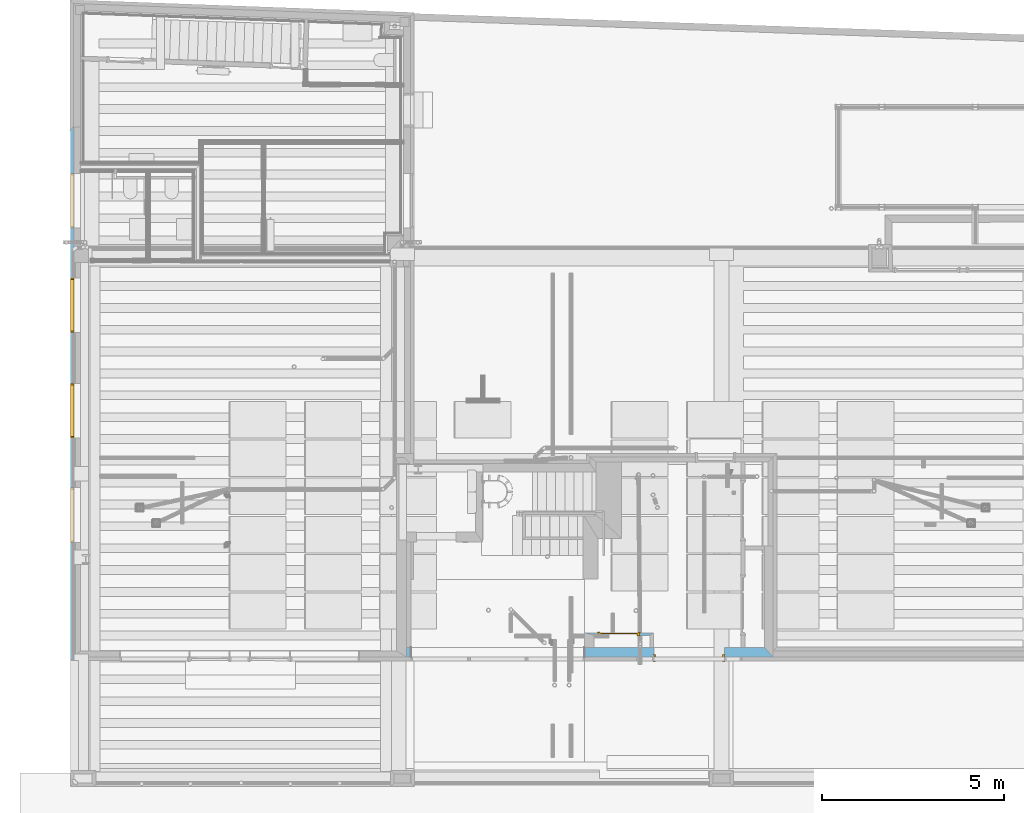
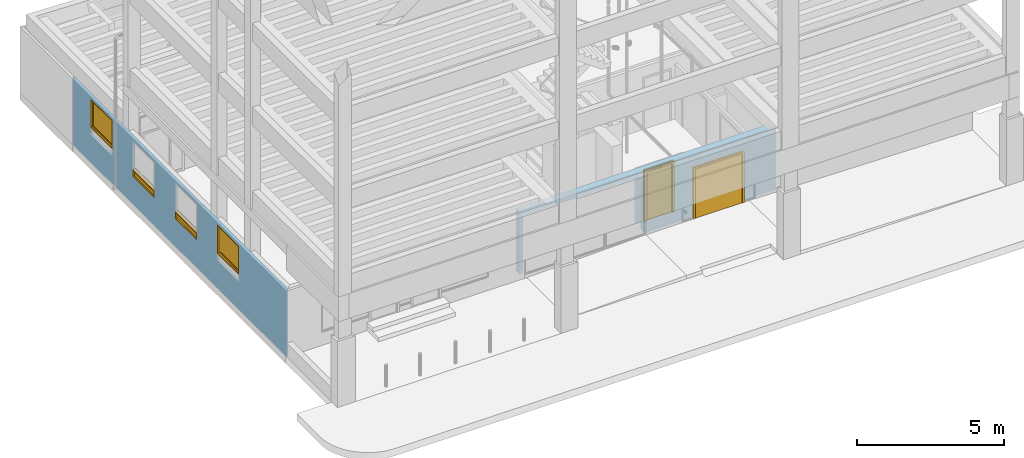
# One storey, part 22 of 108: 4 windows, 2 doors, 7 openings, plus 3 elements that do not belong to this part.
"""IFC2X3 building model written with IfcOpenShell, lengths in metres."""

from ifc_helpers import new_model, entity, si_unit, converted_unit, derived_unit, money_unit, direction, frame, frame_2d, origin_with_axes, place, context, subcontext, project, spatial, polyline, rectangle, outline, extrude, faceted_brep, material, layer, layer_set, layer_usage, type_object, element, fill, save


model = new_model("IFC2X3")

# Units and contexts
model_context = context("Model", 3, precision=1e-05, world=origin_with_axes(), true_north=direction((0.0, 1.0)))
body_context = subcontext(model_context, "Body", "Model", "MODEL_VIEW", scale=1.0)
ifc_project = project(units=[si_unit("LENGTHUNIT", "METRE"), si_unit("AREAUNIT", "SQUARE_METRE"), si_unit("VOLUMEUNIT", "CUBIC_METRE"), si_unit("ABSORBEDDOSEUNIT", "GRAY"), si_unit("AMOUNTOFSUBSTANCEUNIT", "MOLE"), si_unit("DOSEEQUIVALENTUNIT", "SIEVERT"), si_unit("ELECTRICCAPACITANCEUNIT", "FARAD"), si_unit("ELECTRICCHARGEUNIT", "COULOMB"), si_unit("ELECTRICCONDUCTANCEUNIT", "SIEMENS"), si_unit("ELECTRICCURRENTUNIT", "AMPERE"), si_unit("ELECTRICRESISTANCEUNIT", "OHM"), si_unit("ELECTRICVOLTAGEUNIT", "VOLT"), si_unit("ENERGYUNIT", "JOULE"), si_unit("FORCEUNIT", "NEWTON"), si_unit("FREQUENCYUNIT", "HERTZ"), si_unit("ILLUMINANCEUNIT", "LUX"), si_unit("INDUCTANCEUNIT", "HENRY"), si_unit("LUMINOUSFLUXUNIT", "LUMEN"), si_unit("LUMINOUSINTENSITYUNIT", "CANDELA"), si_unit("MAGNETICFLUXDENSITYUNIT", "TESLA"), si_unit("MAGNETICFLUXUNIT", "WEBER"), si_unit("MASSUNIT", "GRAM"), converted_unit("PLANEANGLEUNIT", "degree", entity("IfcReal", 0.0174532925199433), si_unit("PLANEANGLEUNIT", "RADIAN"), dimensions=[0, 0, 0, 0, 0, 0, 0]), si_unit("POWERUNIT", "WATT"), si_unit("PRESSUREUNIT", "PASCAL"), si_unit("RADIOACTIVITYUNIT", "BECQUEREL"), si_unit("SOLIDANGLEUNIT", "STERADIAN"), si_unit("THERMODYNAMICTEMPERATUREUNIT", "KELVIN"), si_unit("TIMEUNIT", "SECOND"), derived_unit("ACCELERATIONUNIT", [(si_unit("LENGTHUNIT", "METRE"), 1), (si_unit("TIMEUNIT", "SECOND"), -2)]), derived_unit("ANGULARVELOCITYUNIT", [(converted_unit("PLANEANGLEUNIT", "degree", entity("IfcReal", 0.0174532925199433), si_unit("PLANEANGLEUNIT", "RADIAN"), dimensions=[0, 0, 0, 0, 0, 0, 0]), 1), (si_unit("TIMEUNIT", "SECOND"), -1)]), derived_unit("CURVATUREUNIT", [(converted_unit("PLANEANGLEUNIT", "degree", entity("IfcReal", 0.0174532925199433), si_unit("PLANEANGLEUNIT", "RADIAN"), dimensions=[0, 0, 0, 0, 0, 0, 0]), 1), (si_unit("LENGTHUNIT", "METRE"), -1)]), derived_unit("DYNAMICVISCOSITYUNIT", [(si_unit("PRESSUREUNIT", "PASCAL"), 1), (si_unit("TIMEUNIT", "SECOND"), 1)]), derived_unit("HEATFLUXDENSITYUNIT", [(si_unit("POWERUNIT", "WATT"), 1), (si_unit("LENGTHUNIT", "METRE"), -2)]), derived_unit("HEATINGVALUEUNIT", [(si_unit("ENERGYUNIT", "JOULE"), 1), (si_unit("MASSUNIT", "GRAM"), -1)]), derived_unit("INTEGERCOUNTRATEUNIT", [(si_unit("TIMEUNIT", "SECOND"), -1)]), derived_unit("IONCONCENTRATIONUNIT", [(si_unit("MASSUNIT", "GRAM"), 1), (si_unit("VOLUMEUNIT", "CUBIC_METRE"), -1)]), derived_unit("ISOTHERMALMOISTURECAPACITYUNIT", [(si_unit("VOLUMEUNIT", "CUBIC_METRE"), 1), (si_unit("MASSUNIT", "GRAM"), -1)]), derived_unit("KINEMATICVISCOSITYUNIT", [(si_unit("AREAUNIT", "SQUARE_METRE"), 1), (si_unit("TIMEUNIT", "SECOND"), -1)]), derived_unit("LINEARFORCEUNIT", [(si_unit("FORCEUNIT", "NEWTON"), 1), (si_unit("LENGTHUNIT", "METRE"), -1)]), derived_unit("LINEARMOMENTUNIT", [(si_unit("FORCEUNIT", "NEWTON"), 1), (si_unit("LENGTHUNIT", "METRE"), -1)]), derived_unit("LINEARSTIFFNESSUNIT", [(si_unit("FORCEUNIT", "NEWTON"), 1), (si_unit("LENGTHUNIT", "METRE"), -1)]), derived_unit("LINEARVELOCITYUNIT", [(si_unit("LENGTHUNIT", "METRE"), 1), (si_unit("TIMEUNIT", "SECOND"), -1)]), derived_unit("LUMINOUSINTENSITYDISTRIBUTIONUNIT", [(si_unit("LUMINOUSINTENSITYUNIT", "CANDELA"), 1), (si_unit("LUMINOUSFLUXUNIT", "LUMEN"), -1)]), derived_unit("MASSDENSITYUNIT", [(si_unit("MASSUNIT", "GRAM"), 1), (si_unit("VOLUMEUNIT", "CUBIC_METRE"), -1)]), derived_unit("MASSFLOWRATEUNIT", [(si_unit("MASSUNIT", "GRAM"), 1), (si_unit("TIMEUNIT", "SECOND"), -1)]), derived_unit("MASSPERLENGTHUNIT", [(si_unit("MASSUNIT", "GRAM"), 1), (si_unit("LENGTHUNIT", "METRE"), -1)]), derived_unit("MODULUSOFELASTICITYUNIT", [(si_unit("FORCEUNIT", "NEWTON"), 1), (si_unit("AREAUNIT", "SQUARE_METRE"), -1)]), derived_unit("MODULUSOFLINEARSUBGRADEREACTIONUNIT", [(si_unit("FORCEUNIT", "NEWTON"), 1), (si_unit("LENGTHUNIT", "METRE"), -2)]), derived_unit("MODULUSOFROTATIONALSUBGRADEREACTIONUNIT", [(si_unit("FORCEUNIT", "NEWTON"), 1), (si_unit("LENGTHUNIT", "METRE"), 1)]), derived_unit("MODULUSOFSUBGRADEREACTIONUNIT", [(si_unit("FORCEUNIT", "NEWTON"), 1), (si_unit("VOLUMEUNIT", "CUBIC_METRE"), -1)]), derived_unit("MOISTUREDIFFUSIVITYUNIT", [(si_unit("VOLUMEUNIT", "CUBIC_METRE"), 1), (si_unit("TIMEUNIT", "SECOND"), -1)]), derived_unit("MOLECULARWEIGHTUNIT", [(si_unit("MASSUNIT", "GRAM"), 1), (si_unit("AMOUNTOFSUBSTANCEUNIT", "MOLE"), -1)]), derived_unit("PLANARFORCEUNIT", [(si_unit("FORCEUNIT", "NEWTON"), 1), (si_unit("LENGTHUNIT", "METRE"), -2)]), derived_unit("ROTATIONALFREQUENCYUNIT", [(si_unit("TIMEUNIT", "SECOND"), -1)]), derived_unit("ROTATIONALMASSUNIT", [(si_unit("MASSUNIT", "GRAM"), 1), (si_unit("LENGTHUNIT", "METRE"), 2)]), derived_unit("ROTATIONALSTIFFNESSUNIT", [(si_unit("FORCEUNIT", "NEWTON"), 1), (si_unit("LENGTHUNIT", "METRE"), 1), (converted_unit("PLANEANGLEUNIT", "degree", entity("IfcReal", 0.0174532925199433), si_unit("PLANEANGLEUNIT", "RADIAN"), dimensions=[0, 0, 0, 0, 0, 0, 0]), -1)]), derived_unit("SECTIONAREAINTEGRALUNIT", [(si_unit("LENGTHUNIT", "METRE"), 5)]), derived_unit("SECTIONMODULUSUNIT", [(si_unit("LENGTHUNIT", "METRE"), 3)]), derived_unit("SHEARMODULUSUNIT", [(si_unit("FORCEUNIT", "NEWTON"), 1), (si_unit("AREAUNIT", "SQUARE_METRE"), -1)]), derived_unit("SOUNDPOWERUNIT", [(si_unit("ENERGYUNIT", "JOULE"), 1), (si_unit("TIMEUNIT", "SECOND"), -1)]), derived_unit("SPECIFICHEATCAPACITYUNIT", [(si_unit("FORCEUNIT", "NEWTON"), 1), (si_unit("MASSUNIT", "GRAM"), -1), (si_unit("THERMODYNAMICTEMPERATUREUNIT", "KELVIN"), -1)]), derived_unit("TEMPERATUREGRADIENTUNIT", [(si_unit("THERMODYNAMICTEMPERATUREUNIT", "KELVIN"), 1), (si_unit("LENGTHUNIT", "METRE"), -1)]), derived_unit("THERMALADMITTANCEUNIT", [(si_unit("POWERUNIT", "WATT"), 1), (si_unit("AREAUNIT", "SQUARE_METRE"), -1), (si_unit("THERMODYNAMICTEMPERATUREUNIT", "KELVIN"), -1)]), derived_unit("THERMALCONDUCTANCEUNIT", [(si_unit("POWERUNIT", "WATT"), 1), (si_unit("LENGTHUNIT", "METRE"), -1), (si_unit("THERMODYNAMICTEMPERATUREUNIT", "KELVIN"), -1)]), derived_unit("THERMALEXPANSIONCOEFFICIENTUNIT", [(si_unit("THERMODYNAMICTEMPERATUREUNIT", "KELVIN"), -1)]), derived_unit("THERMALRESISTANCEUNIT", [(si_unit("AREAUNIT", "SQUARE_METRE"), 1), (si_unit("POWERUNIT", "WATT"), -1)]), derived_unit("THERMALTRANSMITTANCEUNIT", [(si_unit("POWERUNIT", "WATT"), 1), (si_unit("AREAUNIT", "SQUARE_METRE"), -1), (si_unit("THERMODYNAMICTEMPERATUREUNIT", "KELVIN"), -1)]), derived_unit("TORQUEUNIT", [(si_unit("FORCEUNIT", "NEWTON"), 1), (si_unit("LENGTHUNIT", "METRE"), 1)]), derived_unit("VAPORPERMEABILITYUNIT", [(si_unit("MASSUNIT", "GRAM"), 1), (si_unit("TIMEUNIT", "SECOND"), -1)]), derived_unit("VOLUMETRICFLOWRATEUNIT", [(si_unit("VOLUMEUNIT", "CUBIC_METRE"), 1), (si_unit("TIMEUNIT", "SECOND"), -1)]), derived_unit("WARPINGCONSTANTUNIT", [(si_unit("LENGTHUNIT", "METRE"), 6)]), derived_unit("WARPINGMOMENTUNIT", [(si_unit("FORCEUNIT", "NEWTON"), 1), (si_unit("LENGTHUNIT", "METRE"), 2)]), money_unit("GBP")], contexts=[model_context])

# Site, building, storey
site_placement = place(None, origin_with_axes())
site = spatial("IfcSite", under=ifc_project, at=site_placement, Name="Site", CompositionType="ELEMENT")
building_placement = place(site_placement, origin_with_axes())
building = spatial("IfcBuilding", under=site, at=building_placement, Name="Building01", CompositionType="ELEMENT")
storey_placement = place(building_placement, origin_with_axes())
storey = spatial("IfcBuildingStorey", under=building, at=storey_placement, Name="GF", CompositionType="ELEMENT", Elevation=0.0)

# Wall, openings
ifc_material_1 = material(Name="A_BSUK_WallsExternal_Brick")
ifc_layer_1 = layer(ifc_material_1, 0.1, ventilated=False)
ifc_layer_set_1 = layer_set([ifc_layer_1])
ifc_layer_usage_1 = layer_usage(ifc_layer_set_1, "AXIS2", "POSITIVE", 0.0)
wall_type_1 = type_object("IfcWallType", Name="A-Walls-ExternalBrick", PredefinedType="NOTDEFINED")
wall_1_placement = place(storey_placement, frame((0.000677, 18.020229, -0.145), z_axis=(0.0, 0.0, 1.0), x_axis=(-3.756e-05, -1.0, 0.0)))
wall_1 = element("IfcWallStandardCase", 1, at=wall_1_placement, inside=storey, type_object=wall_type_1, material=ifc_layer_usage_1, Name="A-Walls-ExternalBrick", ObjectType="A-Walls-ExternalBrick", context=body_context, shape_type="SweptSolid", body=[
    extrude(outline(polyline([(14.460712, 0.1), (-0.100004, 0.1), (0.0, 0.0), (14.560712, 0.0), (14.460712, 0.1)])), origin_with_axes(), (0.0, 0.0, 1.0), 2.745),
])
opening_1_placement = place(wall_1_placement, frame((6.944757, 0.0, 1.143), z_axis=(0.0, 0.0, 1.0), x_axis=(1.0, 0.0, 0.0)))
opening_1 = element("IfcOpeningElement", 2, at=opening_1_placement, cuts=wall_1, Name="Opening", ObjectType="Opening", context=body_context, shape_type="Brep", body=[
    faceted_brep([(1.5, 0.1, 0.0), (0.0, 0.1, 0.0), (0.0, 0.1, 1.5), (1.5, 0.1, 1.5), (4e-06, 0.0, 0.0), (1.500004, 0.0, 0.0), (4e-06, 0.0, 1.5), (1.500004, 0.0, 1.5)], [[[0, 1, 2, 3]], [[4, 1, 0, 5]], [[6, 2, 1, 4]], [[5, 0, 3, 7]], [[4, 5, 7, 6]], [[7, 3, 2, 6]]]),
])
opening_2_placement = place(wall_1_placement, frame((9.809487, 0.0, 1.143), z_axis=(0.0, 0.0, 1.0), x_axis=(1.0, 0.0, 0.0)))
opening_2 = element("IfcOpeningElement", 3, at=opening_2_placement, cuts=wall_1, Name="Opening", ObjectType="Opening", context=body_context, shape_type="Brep", body=[
    faceted_brep([(1.5, 0.1, 0.0), (0.0, 0.1, 0.0), (0.0, 0.1, 1.5), (1.5, 0.1, 1.5), (4e-06, 0.0, 1.5), (4e-06, 0.0, 0.0), (1.500004, 0.0, 1.5), (1.500004, 0.0, 0.0)], [[[0, 1, 2, 3]], [[4, 2, 1, 5]], [[6, 3, 2, 4]], [[7, 0, 3, 6]], [[5, 7, 6, 4]], [[5, 1, 0, 7]]]),
])
opening_3_placement = place(wall_1_placement, frame((4.051232, 0.0, 1.143), z_axis=(0.0, 0.0, 1.0), x_axis=(1.0, 0.0, 0.0)))
opening_3 = element("IfcOpeningElement", 4, at=opening_3_placement, cuts=wall_1, Name="Opening", ObjectType="Opening", context=body_context, shape_type="Brep", body=[
    faceted_brep([(1.5, 0.1, 0.0), (0.0, 0.1, 0.0), (0.0, 0.1, 1.5), (1.5, 0.1, 1.5), (4e-06, 0.0, 0.0), (1.500004, 0.0, 0.0), (4e-06, 0.0, 1.5), (1.500004, 0.0, 1.5)], [[[0, 1, 2, 3]], [[4, 1, 0, 5]], [[6, 2, 1, 4]], [[5, 0, 3, 7]], [[4, 5, 7, 6]], [[7, 3, 2, 6]]]),
])
opening_4_placement = place(wall_1_placement, frame((1.177435, 0.0, 1.143), z_axis=(0.0, 0.0, 1.0), x_axis=(1.0, 0.0, 0.0)))
opening_4 = element("IfcOpeningElement", 5, at=opening_4_placement, cuts=wall_1, Name="Opening", ObjectType="Opening", context=body_context, shape_type="Brep", body=[
    faceted_brep([(1.5, 0.1, 0.0), (0.0, 0.1, 0.0), (0.0, 0.1, 1.5), (1.5, 0.1, 1.5), (4e-06, 0.0, 1.5), (4e-06, 0.0, 0.0), (1.500004, 0.0, 1.5), (1.500004, 0.0, 0.0)], [[[0, 1, 2, 3]], [[4, 2, 1, 5]], [[6, 3, 2, 4]], [[7, 0, 3, 6]], [[5, 7, 6, 4]], [[5, 1, 0, 7]]]),
])

# Space
space_1_placement = place(storey_placement, frame((3.380525, 16.69365, 0.216987), z_axis=(0.0, 0.0, 1.0), x_axis=(-1.0, 0.0, 0.0)))
space_1 = spatial("IfcSpace", under=storey, at=space_1_placement, Name="0", CompositionType="ELEMENT", InteriorOrExteriorSpace="NOTDEFINED")

# Window
ifc_material_2 = material(Name="A_BSUK_Window_Frames")
window_style_1 = type_object("IfcWindowStyle", Name="A-Fixed", ConstructionType="NOTDEFINED", OperationType="USERDEFINED", ParameterTakesPrecedence=False, Sizeable=False)
window_1_placement = place(opening_1_placement, frame((1.500004, 0.0, 0.0), z_axis=(0.0, 0.0, 1.0), x_axis=(1.0, 3.756e-05, 0.0)))
window_1 = element("IfcWindow", 6, at=window_1_placement, inside=space_1, type_object=window_style_1, material=ifc_material_2, Name="0.01", ObjectType="A-Fixed", OverallHeight=0.300000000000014, OverallWidth=1.50000000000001, context=body_context, shape_type="Brep", body=[
    faceted_brep([(-0.042, 0.0, 0.042), (-0.042, 0.0, 0.258), (-0.042, 0.1, 0.258), (-0.042, 0.1, 0.042), (0.0, 0.1, 0.3), (-1.5, 0.1, 0.3), (-1.5, 0.0, 0.3), (0.0, 0.0, 0.3), (0.0, 0.1, 0.0), (0.0, 0.0, 0.0), (-1.5, 0.1, 0.0), (-1.5, 0.0, 0.0), (-1.458, 0.1, 0.258), (-1.458, 0.1, 0.042), (-1.458, 0.0, 0.042), (-1.458, 0.0, 0.258)], [[[0, 1, 2, 3]], [[4, 5, 6, 7]], [[8, 4, 7, 9]], [[10, 8, 9, 11]], [[5, 10, 11, 6]], [[5, 4, 8, 10], [3, 2, 12, 13]], [[14, 0, 3, 13]], [[15, 14, 13, 12]], [[1, 15, 12, 2]], [[9, 7, 6, 11], [15, 1, 0, 14]]]),
    faceted_brep([(-0.042, 0.053175, 0.258), (-0.042, 0.046825, 0.258), (-0.042, 0.046825, 0.042), (-0.042, 0.053175, 0.042), (-1.458, 0.053175, 0.042), (-1.458, 0.046825, 0.042), (-1.458, 0.046825, 0.258), (-1.458, 0.053175, 0.258)], [[[0, 1, 2, 3]], [[4, 5, 6, 7]], [[3, 2, 5, 4]], [[3, 4, 7, 0]], [[7, 6, 1, 0]], [[1, 6, 5, 2]]]),
])

fill(opening_1, window_1)

window_2_placement = place(opening_3_placement, frame((1.500004, 0.0, 0.0), z_axis=(0.0, 0.0, 1.0), x_axis=(1.0, 3.756e-05, 0.0)))
window_2 = element("IfcWindow", 7, at=window_2_placement, inside=space_1, type_object=window_style_1, material=ifc_material_2, Name="0.13", ObjectType="A-Fixed", OverallHeight=0.300000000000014, OverallWidth=1.50000000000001, context=body_context, shape_type="Brep", body=[
    faceted_brep([(-0.042, 0.0, 0.042), (-0.042, 0.0, 0.258), (-0.042, 0.1, 0.258), (-0.042, 0.1, 0.042), (0.0, 0.1, 0.3), (-1.5, 0.1, 0.3), (-1.5, 0.0, 0.3), (0.0, 0.0, 0.3), (0.0, 0.1, 0.0), (0.0, 0.0, 0.0), (-1.5, 0.1, 0.0), (-1.5, 0.0, 0.0), (-1.458, 0.1, 0.258), (-1.458, 0.1, 0.042), (-1.458, 0.0, 0.042), (-1.458, 0.0, 0.258)], [[[0, 1, 2, 3]], [[4, 5, 6, 7]], [[8, 4, 7, 9]], [[10, 8, 9, 11]], [[5, 10, 11, 6]], [[5, 4, 8, 10], [3, 2, 12, 13]], [[14, 0, 3, 13]], [[15, 14, 13, 12]], [[1, 15, 12, 2]], [[9, 7, 6, 11], [15, 1, 0, 14]]]),
    faceted_brep([(-0.042, 0.053175, 0.258), (-0.042, 0.046825, 0.258), (-0.042, 0.046825, 0.042), (-0.042, 0.053175, 0.042), (-1.458, 0.053175, 0.042), (-1.458, 0.046825, 0.042), (-1.458, 0.046825, 0.258), (-1.458, 0.053175, 0.258)], [[[0, 1, 2, 3]], [[4, 5, 6, 7]], [[3, 2, 5, 4]], [[3, 4, 7, 0]], [[7, 6, 1, 0]], [[1, 6, 5, 2]]]),
])

fill(opening_3, window_2)

ifc_material_3 = material(Name="A_BSUK_Windows")
window_style_2 = type_object("IfcWindowStyle", Name="A-Awning", ConstructionType="NOTDEFINED", OperationType="USERDEFINED", ParameterTakesPrecedence=False, Sizeable=False)
window_3_placement = place(opening_2_placement, frame((1.499999, 0.1254, 0.3), z_axis=(0.0, 0.0, 1.0), x_axis=(-1.0, -3.756e-05, 0.0)))
window_3 = element("IfcWindow", 8, at=window_3_placement, inside=space_1, type_object=window_style_2, material=ifc_material_3, Name="0.10", ObjectType="A-Awning", OverallHeight=1.20000000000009, OverallWidth=1.50000000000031, context=body_context, shape_type="Brep", body=[
    faceted_brep([(1.458, 0.1254, 0.042), (0.042, 0.1254, 0.042), (0.042, 0.0254, 0.042), (1.458, 0.0254, 0.042), (1.458, 0.1254, 1.158), (1.458, 0.0254, 1.158), (0.042, 0.1254, 1.158), (0.042, 0.0254, 1.158), (1.5, 0.0254, 0.0), (1.5, 0.0254, 1.2), (0.0, 0.0254, 1.2), (0.0, 0.0254, 0.0), (1.5, 0.1254, 1.2), (0.0, 0.1254, 1.2), (0.0, 0.1254, 0.0), (1.5, 0.1254, 0.0)], [[[0, 1, 2, 3]], [[4, 0, 3, 5]], [[6, 4, 5, 7]], [[8, 9, 10, 11], [3, 2, 7, 5]], [[1, 6, 7, 2]], [[10, 9, 12, 13]], [[8, 11, 14, 15]], [[9, 8, 15, 12]], [[15, 14, 13, 12], [0, 4, 6, 1]], [[11, 10, 13, 14]]]),
    faceted_brep([(1.4072, 0.0704, 0.0928), (0.0928, 0.0704, 0.0928), (0.0928, 0.0354, 0.0928), (1.4072, 0.0354, 0.0928), (1.4072, 0.0704, 1.1072), (1.4072, 0.0354, 1.1072), (0.0928, 0.0704, 1.1072), (0.0928, 0.0354, 1.1072), (1.458, 0.0704, 0.042), (0.042, 0.0704, 0.042), (0.042, 0.0704, 1.158), (1.458, 0.0704, 1.158), (0.042, 0.0354, 1.158), (1.458, 0.0354, 1.158), (0.042, 0.0354, 0.042), (1.458, 0.0354, 0.042)], [[[0, 1, 2, 3]], [[4, 0, 3, 5]], [[6, 4, 5, 7]], [[8, 9, 10, 11], [0, 4, 6, 1]], [[12, 13, 11, 10]], [[14, 12, 10, 9]], [[15, 14, 9, 8]], [[13, 15, 8, 11]], [[15, 13, 12, 14], [3, 2, 7, 5]], [[1, 6, 7, 2]]]),
    faceted_brep([(0.0928, 0.049725, 1.1072), (0.0928, 0.056075, 1.1072), (0.0928, 0.056075, 0.0928), (0.0928, 0.049725, 0.0928), (1.4072, 0.049725, 0.0928), (1.4072, 0.056075, 0.0928), (1.4072, 0.056075, 1.1072), (1.4072, 0.049725, 1.1072)], [[[0, 1, 2, 3]], [[4, 5, 6, 7]], [[7, 6, 1, 0]], [[3, 4, 7, 0]], [[3, 2, 5, 4]], [[1, 6, 5, 2]]]),
])

fill(opening_2, window_3)

# Space
space_2_placement = place(storey_placement, frame((0.280851, 16.893647, 0.217025), z_axis=(0.0, 0.0, 1.0), x_axis=(0.0, -1.0, 0.0)))
space_2 = spatial("IfcSpace", under=storey, at=space_2_placement, Name="F", CompositionType="ELEMENT", InteriorOrExteriorSpace="NOTDEFINED")

# Window
window_4_placement = place(opening_4_placement, frame((1.499999, 0.125348, 0.3), z_axis=(0.0, 0.0, 1.0), x_axis=(-1.0, -3.756e-05, 0.0)))
window_4 = element("IfcWindow", 9, at=window_4_placement, inside=space_2, type_object=window_style_2, material=ifc_material_3, Name="0.15", ObjectType="A-Awning", OverallHeight=1.20000000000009, OverallWidth=1.50000000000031, context=body_context, shape_type="Brep", body=[
    faceted_brep([(1.458, 0.1254, 0.042), (0.042, 0.1254, 0.042), (0.042, 0.0254, 0.042), (1.458, 0.0254, 0.042), (1.458, 0.1254, 1.158), (1.458, 0.0254, 1.158), (0.042, 0.1254, 1.158), (0.042, 0.0254, 1.158), (1.5, 0.0254, 0.0), (1.5, 0.0254, 1.2), (0.0, 0.0254, 1.2), (0.0, 0.0254, 0.0), (1.5, 0.1254, 1.2), (0.0, 0.1254, 1.2), (0.0, 0.1254, 0.0), (1.5, 0.1254, 0.0)], [[[0, 1, 2, 3]], [[4, 0, 3, 5]], [[6, 4, 5, 7]], [[8, 9, 10, 11], [3, 2, 7, 5]], [[1, 6, 7, 2]], [[10, 9, 12, 13]], [[8, 11, 14, 15]], [[9, 8, 15, 12]], [[15, 14, 13, 12], [0, 4, 6, 1]], [[11, 10, 13, 14]]]),
    faceted_brep([(1.4072, 0.0704, 0.0928), (0.0928, 0.0704, 0.0928), (0.0928, 0.0354, 0.0928), (1.4072, 0.0354, 0.0928), (1.4072, 0.0704, 1.1072), (1.4072, 0.0354, 1.1072), (0.0928, 0.0704, 1.1072), (0.0928, 0.0354, 1.1072), (1.458, 0.0704, 0.042), (0.042, 0.0704, 0.042), (0.042, 0.0704, 1.158), (1.458, 0.0704, 1.158), (0.042, 0.0354, 1.158), (1.458, 0.0354, 1.158), (0.042, 0.0354, 0.042), (1.458, 0.0354, 0.042)], [[[0, 1, 2, 3]], [[4, 0, 3, 5]], [[6, 4, 5, 7]], [[8, 9, 10, 11], [0, 4, 6, 1]], [[12, 13, 11, 10]], [[14, 12, 10, 9]], [[15, 14, 9, 8]], [[13, 15, 8, 11]], [[15, 13, 12, 14], [3, 2, 7, 5]], [[1, 6, 7, 2]]]),
    faceted_brep([(0.0928, 0.049725, 1.1072), (0.0928, 0.056075, 1.1072), (0.0928, 0.056075, 0.0928), (0.0928, 0.049725, 0.0928), (1.4072, 0.049725, 0.0928), (1.4072, 0.056075, 0.0928), (1.4072, 0.056075, 1.1072), (1.4072, 0.049725, 1.1072)], [[[0, 1, 2, 3]], [[4, 5, 6, 7]], [[7, 6, 1, 0]], [[3, 4, 7, 0]], [[3, 2, 5, 4]], [[1, 6, 5, 2]]]),
])

fill(opening_4, window_4)

# Wall, openings
ifc_material_4 = material(Name="A_BSUK_WallsExternal_Block")
ifc_layer_2 = layer(ifc_material_4, 0.265, ventilated=False)
ifc_layer_set_2 = layer_set([ifc_layer_2])
ifc_layer_usage_2 = layer_usage(ifc_layer_set_2, "AXIS2", "POSITIVE", 0.0)
wall_type_2 = type_object("IfcWallType", Name="A-Walls-ExternalBlock", PredefinedType="NOTDEFINED")
wall_2_placement = place(storey_placement, frame((19.069772, 3.823962, 0.0), z_axis=(0.0, 0.0, 1.0), x_axis=(-1.0, 0.0, 0.0)))
wall_2 = element("IfcWallStandardCase", 10, at=wall_2_placement, inside=storey, type_object=wall_type_2, material=ifc_layer_usage_2, Name="A-Walls-ExternalBlock", ObjectType="A-Walls-ExternalBlock", context=body_context, shape_type="SweptSolid", body=[
    extrude(outline(polyline([(9.839772, 0.265), (-0.233, 0.265), (0.0, 0.0), (9.839772, 0.0), (9.839772, 0.265)])), origin_with_axes(), (0.0, 0.0, 1.0), 2.6),
])
opening_5_placement = place(wall_2_placement, frame((1.109549, 0.0, 0.0), z_axis=(0.0, 0.0, 1.0), x_axis=(1.0, 0.0, 0.0)))
opening_5 = element("IfcOpeningElement", 11, at=opening_5_placement, cuts=wall_2, Name="Opening", ObjectType="Opening", context=body_context, shape_type="SweptSolid", body=[
    extrude(rectangle(XDim=2.1, YDim=1.934, at=frame_2d((-0.967, 1.05), x_axis=(0.0, -1.0))), frame((0.0, 0.0, 0.0), z_axis=(0.0, 1.0, 0.0), x_axis=(-1.0, 0.0, 0.0)), (0.0, 0.0, 1.0), 0.265),
])
opening_6_placement = place(wall_2_placement, frame((4.945672, 0.0, 0.0), z_axis=(0.0, 0.0, 1.0), x_axis=(1.0, 0.0, 0.0)))
element("IfcOpeningElement", 12, at=opening_6_placement, cuts=wall_2, Name="Opening", ObjectType="Opening", context=body_context, shape_type="SweptSolid", body=[
    extrude(rectangle(XDim=2.4, YDim=4.77, at=frame_2d((-2.385, 1.2), x_axis=(0.0, 1.0))), frame((0.0, 0.0, 0.0), z_axis=(0.0, 1.0, 0.0), x_axis=(-1.0, 0.0, 0.0)), (0.0, 0.0, 1.0), 0.265),
])

# Space
space_3_placement = place(storey_placement, frame((0.665095, 0.0, 0.0), z_axis=(0.0, 0.0, 1.0), x_axis=(1.0, -4.064e-05, 0.0)))
space_3 = spatial("IfcSpace", under=storey, at=space_3_placement, Name="UNDERCROFT (front)", CompositionType="ELEMENT", InteriorOrExteriorSpace="NOTDEFINED")

# Door
ifc_material_5 = material(Name="A_BSUK_Doors")
door_style_1 = type_object("IfcDoorStyle", Name="A-Doors-DoubleFlush", ConstructionType="USERDEFINED", OperationType="DOUBLE_DOOR_SINGLE_SWING", ParameterTakesPrecedence=False, Sizeable=False)
door_1_placement = place(opening_5_placement, frame((0.042, 0.365048, 0.0), z_axis=(0.0, 0.0, 1.0), x_axis=(1.0, 0.0, 0.0)))
door_1 = element("IfcDoor", 13, at=door_1_placement, inside=space_3, type_object=door_style_1, material=ifc_material_5, Name="0.01", ObjectType="A-Doors-DoubleFlush", OverallHeight=2.1, OverallWidth=1.934, context=body_context, shape_type="Brep", body=[
    faceted_brep([(1.85, -0.1714, 0.0), (1.919, -0.1714, 0.0), (1.919, -0.1714, 2.127), (-0.069, -0.1714, 2.127), (-0.069, -0.1714, 0.0), (0.0, -0.1714, 0.0), (0.0, -0.1714, 2.058), (1.85, -0.1714, 2.058), (-0.069, -0.1524, 0.0), (-0.069, -0.1524, 2.127), (1.919, -0.1524, 2.127), (1.919, -0.1524, 0.0), (1.85, 0.019, 0.0), (1.919, 0.019, 0.0), (1.919, 0.0, 0.0), (1.892, 0.0, 0.0), (1.892, -0.1524, 0.0), (1.85, 0.019, 2.058), (0.0, 0.019, 2.058), (0.0, 0.019, 0.0), (-0.069, 0.019, 0.0), (-0.069, 0.019, 2.127), (1.919, 0.019, 2.127), (1.919, 0.0, 2.127), (1.892, -0.1524, 2.1), (1.892, 0.0, 2.1), (-0.042, -0.1524, 2.1), (-0.042, 0.0, 2.1), (-0.042, -0.1524, 0.0), (-0.042, 0.0, 0.0), (-0.069, 0.0, 2.127), (-0.069, 0.0, 0.0)], [[[0, 1, 2, 3, 4, 5, 6, 7]], [[8, 4, 3, 9]], [[10, 2, 1, 11]], [[9, 3, 2, 10]], [[12, 13, 14, 15, 16, 11, 1, 0]], [[7, 17, 12, 0]], [[6, 18, 17, 7]], [[18, 19, 20, 21, 22, 13, 12, 17]], [[5, 19, 18, 6]], [[13, 22, 23, 14]], [[24, 16, 15, 25]], [[26, 24, 25, 27]], [[11, 16, 24, 26, 28, 8, 9, 10]], [[27, 29, 28, 26]], [[25, 15, 14, 23, 30, 31, 29, 27]], [[5, 4, 8, 28, 29, 31, 20, 19]], [[30, 21, 20, 31]], [[23, 22, 21, 30]]]),
    faceted_brep([(0.0, -0.09, 2.058), (0.0, -0.04, 2.058), (0.0, -0.04, 0.0), (0.0, -0.09, 0.0), (1.825, -0.09, 0.0), (1.85, -0.09, 0.0), (1.85, -0.09, 2.058), (0.025, -0.09, 0.0), (0.025, -0.09, 2.033), (1.825, -0.09, 2.033), (1.825, -0.04, 0.0), (1.85, -0.04, 0.0), (1.85, -0.04, 2.058), (0.025, -0.04, 2.033), (0.025, -0.04, 0.0), (1.825, -0.04, 2.033)], [[[0, 1, 2, 3]], [[4, 5, 6, 0, 3, 7, 8, 9]], [[10, 11, 5, 4]], [[6, 12, 1, 0]], [[5, 11, 12, 6]], [[13, 14, 2, 1, 12, 11, 10, 15]], [[7, 14, 13, 8]], [[7, 3, 2, 14]], [[9, 15, 10, 4]], [[8, 13, 15, 9]]]),
    faceted_brep([(1.85, -0.04, 0.0), (1.85, 0.0, 0.0), (1.85, 0.0, 2.058), (1.85, -0.04, 2.058), (0.925, -0.04, 2.058), (0.925, 0.0, 2.058), (0.925, 0.0, 0.0), (0.925, -0.04, 0.0)], [[[0, 1, 2, 3]], [[4, 5, 6, 7]], [[7, 6, 1, 0]], [[3, 4, 7, 0]], [[3, 2, 5, 4]], [[1, 6, 5, 2]]]),
    faceted_brep([(0.925, -0.04, 0.0), (0.925, 0.0, 0.0), (0.925, 0.0, 2.058), (0.925, -0.04, 2.058), (0.0, -0.04, 2.058), (0.0, 0.0, 2.058), (0.0, 0.0, 0.0), (0.0, -0.04, 0.0)], [[[0, 1, 2, 3]], [[4, 5, 6, 7]], [[7, 6, 1, 0]], [[3, 4, 7, 0]], [[3, 2, 5, 4]], [[1, 6, 5, 2]]]),
])

fill(opening_5, door_1)

# Wall, opening
ifc_material_6 = material(Name="A_BSUK_WallsInternal")
ifc_layer_3 = layer(ifc_material_6, 0.07, ventilated=False)
ifc_layer_set_3 = layer_set([ifc_layer_3])
ifc_layer_usage_3 = layer_usage(ifc_layer_set_3, "AXIS2", "POSITIVE", 0.0)
wall_type_3 = type_object("IfcWallType", Name="A-Walls-Internal", PredefinedType="NOTDEFINED")
wall_3_placement = place(storey_placement, frame((16.022644, 4.22747, 0.0), z_axis=(0.0, 0.0, 1.0), x_axis=(-1.0, 0.0, 0.0)))
wall_3 = element("IfcWallStandardCase", 14, at=wall_3_placement, inside=storey, type_object=wall_type_3, material=ifc_layer_usage_3, Name="A-Walls-Internal", ObjectType="A-Walls-Internal", context=body_context, shape_type="SweptSolid", body=[
    extrude(outline(polyline([(1.638314, 0.07), (0.107, 0.07), (0.0, 0.0), (1.901314, 0.0), (1.638314, 0.07)])), origin_with_axes(), (0.0, 0.0, 1.0), 2.3),
])
opening_7_placement = place(wall_3_placement, frame((0.395883, 0.0, 0.0), z_axis=(0.0, 0.0, 1.0), x_axis=(1.0, 0.0, 0.0)))
opening_7 = element("IfcOpeningElement", 15, at=opening_7_placement, cuts=wall_3, Name="Opening", ObjectType="Opening", context=body_context, shape_type="Brep", body=[
    faceted_brep([(0.0, 0.0, 2.1), (0.0, 0.0, 0.0), (1.124, 0.0, 0.0), (1.124, 0.0, 2.1), (3e-06, 0.07, 0.0), (3e-06, 0.07, 2.1), (1.124003, 0.07, 2.1), (1.124003, 0.07, 0.0)], [[[0, 1, 2, 3]], [[4, 5, 6, 7]], [[1, 4, 7, 2]], [[5, 0, 3, 6]], [[4, 1, 0, 5]], [[6, 3, 2, 7]]]),
])

# Space
space_4_placement = place(storey_placement, frame((9.419099, 6.725761, 0.0), z_axis=(0.0, 0.0, 1.0), x_axis=(0.0, -1.0, 0.0)))
space_4 = spatial("IfcSpace", under=storey, at=space_4_placement, Name="ENTRANCE", CompositionType="ELEMENT", InteriorOrExteriorSpace="NOTDEFINED")

# Door
door_style_2 = type_object("IfcDoorStyle", Name="A-Doors-DoubleFlush", ConstructionType="USERDEFINED", OperationType="DOUBLE_DOOR_SINGLE_SWING", ParameterTakesPrecedence=False, Sizeable=False)
door_2_placement = place(opening_7_placement, frame((1.082, -0.000264, 0.0), z_axis=(0.0, 0.0, 1.0), x_axis=(-1.0, 3.756e-05, 0.0)))
door_2 = element("IfcDoor", 16, at=door_2_placement, inside=space_4, type_object=door_style_2, material=ifc_material_5, Name="0.05", ObjectType="A-Doors-DoubleFlush", OverallHeight=2.12700000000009, OverallWidth=1.17800000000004, context=body_context, shape_type="Brep", body=[
    faceted_brep([(0.0, -0.089, 2.058), (1.04, -0.089, 2.058), (1.04, -0.089, 0.0), (1.109, -0.089, 0.0), (1.109, -0.089, 2.127), (-0.069, -0.089, 2.127), (-0.069, -0.089, 0.0), (0.0, -0.089, 0.0), (1.109, -0.07, 2.127), (1.109, -0.07, 0.0), (-0.069, -0.07, 0.0), (-0.069, -0.07, 2.127), (-0.042, -0.07, 0.0), (-0.042, 0.0, 0.0), (-0.069, 0.0, 0.0), (-0.069, 0.019, 0.0), (0.0, 0.019, 0.0), (0.0, 0.019, 2.058), (1.04, 0.019, 2.058), (-0.069, 0.019, 2.127), (1.109, 0.019, 2.127), (1.109, 0.019, 0.0), (1.04, 0.019, 0.0), (-0.069, 0.0, 2.127), (-0.042, 0.0, 2.1), (-0.042, -0.07, 2.1), (1.082, 0.0, 2.1), (1.082, -0.07, 2.1), (1.082, -0.07, 0.0), (1.082, 0.0, 0.0), (1.109, 0.0, 0.0), (1.109, 0.0, 2.127)], [[[0, 1, 2, 3, 4, 5, 6, 7]], [[8, 4, 3, 9]], [[10, 6, 5, 11]], [[11, 5, 4, 8]], [[7, 6, 10, 12, 13, 14, 15, 16]], [[7, 16, 17, 0]], [[0, 17, 18, 1]], [[17, 16, 15, 19, 20, 21, 22, 18]], [[1, 18, 22, 2]], [[14, 23, 19, 15]], [[24, 13, 12, 25]], [[26, 24, 25, 27]], [[11, 8, 9, 28, 27, 25, 12, 10]], [[27, 28, 29, 26]], [[26, 29, 30, 31, 23, 14, 13, 24]], [[22, 21, 30, 29, 28, 9, 3, 2]], [[30, 21, 20, 31]], [[31, 20, 19, 23]]]),
    faceted_brep([(1.04, -0.09, 0.0), (1.04, -0.04, 0.0), (1.04, -0.04, 2.058), (1.04, -0.09, 2.058), (0.025, -0.09, 2.033), (1.015, -0.09, 2.033), (1.015, -0.09, 0.0), (0.0, -0.09, 2.058), (0.0, -0.09, 0.0), (0.025, -0.09, 0.0), (0.0, -0.04, 0.0), (0.025, -0.04, 0.0), (0.0, -0.04, 2.058), (0.025, -0.04, 2.033), (1.015, -0.04, 0.0), (1.015, -0.04, 2.033)], [[[0, 1, 2, 3]], [[4, 5, 6, 0, 3, 7, 8, 9]], [[9, 8, 10, 11]], [[3, 2, 12, 7]], [[7, 12, 10, 8]], [[13, 11, 10, 12, 2, 1, 14, 15]], [[5, 15, 14, 6]], [[14, 1, 0, 6]], [[9, 11, 13, 4]], [[4, 13, 15, 5]]]),
    faceted_brep([(0.0, -0.04, 2.058), (0.0, 0.0, 2.058), (0.0, 0.0, 0.0), (0.0, -0.04, 0.0), (0.52, -0.04, 0.0), (0.52, 0.0, 0.0), (0.52, 0.0, 2.058), (0.52, -0.04, 2.058)], [[[0, 1, 2, 3]], [[4, 5, 6, 7]], [[3, 2, 5, 4]], [[3, 4, 7, 0]], [[7, 6, 1, 0]], [[1, 6, 5, 2]]]),
    faceted_brep([(0.52, -0.04, 2.058), (0.52, 0.0, 2.058), (0.52, 0.0, 0.0), (0.52, -0.04, 0.0), (1.04, -0.04, 0.0), (1.04, 0.0, 0.0), (1.04, 0.0, 2.058), (1.04, -0.04, 2.058)], [[[0, 1, 2, 3]], [[4, 5, 6, 7]], [[3, 2, 5, 4]], [[3, 4, 7, 0]], [[7, 6, 1, 0]], [[1, 6, 5, 2]]]),
])

fill(opening_7, door_2)

save(model, "model.ifc")
